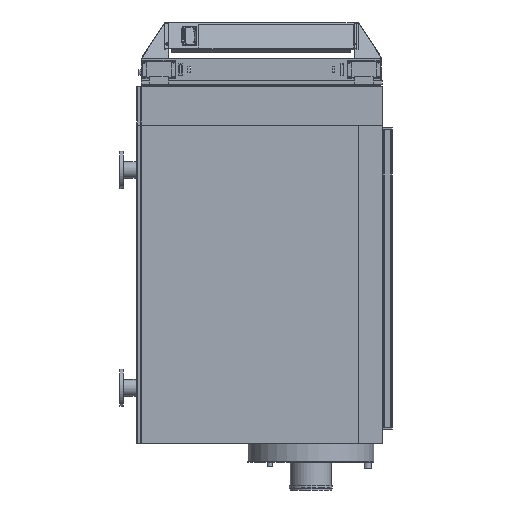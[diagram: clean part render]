
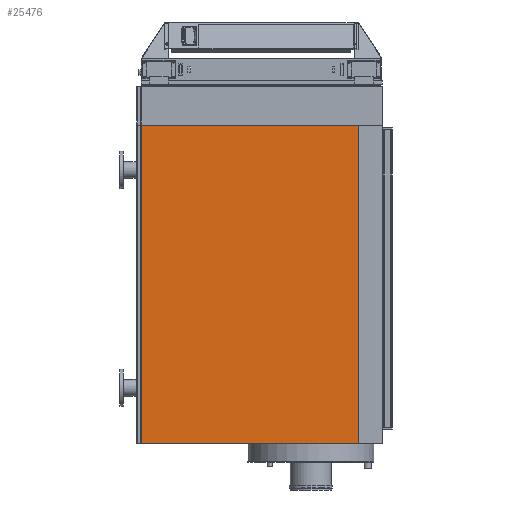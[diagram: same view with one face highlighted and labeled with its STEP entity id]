
A CAD part, left-side view. The second image highlights one B-rep face of the part: STEP entity #25476.
In plain terms, the highlighted planar face has unit normal (-1, 0, 0).
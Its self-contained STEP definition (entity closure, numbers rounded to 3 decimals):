
#2368 = ORIENTED_EDGE ( 'NONE', *, *, #19147, .T. ) ;
#2831 = VECTOR ( 'NONE', #27431, 1000. ) ;
#3181 = VERTEX_POINT ( 'NONE', #39665 ) ;
#3786 = DIRECTION ( 'NONE',  ( 0., 0., -1. ) ) ;
#5377 = AXIS2_PLACEMENT_3D ( 'NONE', #7415, #14826, #41659 ) ;
#7415 = CARTESIAN_POINT ( 'NONE',  ( 65., 672.672, 19.8 ) ) ;
#8136 = DIRECTION ( 'NONE',  ( 0., -1., 0. ) ) ;
#8355 = VERTEX_POINT ( 'NONE', #46560 ) ;
#11378 = CARTESIAN_POINT ( 'NONE',  ( 65., -496.478, -1689.35 ) ) ;
#14826 = DIRECTION ( 'NONE',  ( 1., 0., 0. ) ) ;
#16349 = CARTESIAN_POINT ( 'NONE',  ( 65., -497.328, 18.95 ) ) ;
#17248 = LINE ( 'NONE', #31647, #2831 ) ;
#19147 = EDGE_CURVE ( 'NONE', #47672, #3181, #19160, .T. ) ;
#19160 = LINE ( 'NONE', #33797, #48698 ) ;
#19654 = EDGE_LOOP ( 'NONE', ( #26708, #35891, #2368, #25312 ) ) ;
#19795 = CARTESIAN_POINT ( 'NONE',  ( 65., 672.672, -1689.35 ) ) ;
#22979 = EDGE_CURVE ( 'NONE', #26599, #8355, #17248, .T. ) ;
#25312 = ORIENTED_EDGE ( 'NONE', *, *, #43225, .T. ) ;
#25364 = VECTOR ( 'NONE', #41959, 1000. ) ;
#25476 = ADVANCED_FACE ( 'NONE', ( #26503 ), #37925, .F. ) ;
#26503 = FACE_OUTER_BOUND ( 'NONE', #19654, .T. ) ;
#26599 = VERTEX_POINT ( 'NONE', #11378 ) ;
#26708 = ORIENTED_EDGE ( 'NONE', *, *, #22979, .T. ) ;
#27431 = DIRECTION ( 'NONE',  ( 0., 0., 1. ) ) ;
#27667 = EDGE_CURVE ( 'NONE', #8355, #47672, #31010, .T. ) ;
#31010 = LINE ( 'NONE', #16349, #25364 ) ;
#31647 = CARTESIAN_POINT ( 'NONE',  ( 65., -496.478, -1690.2 ) ) ;
#33797 = CARTESIAN_POINT ( 'NONE',  ( 65., 671.822, 8569.8 ) ) ;
#34682 = LINE ( 'NONE', #19795, #47533 ) ;
#35891 = ORIENTED_EDGE ( 'NONE', *, *, #27667, .T. ) ;
#36212 = CARTESIAN_POINT ( 'NONE',  ( 65., 671.822, 18.95 ) ) ;
#37925 = PLANE ( 'NONE',  #5377 ) ;
#39665 = CARTESIAN_POINT ( 'NONE',  ( 65., 671.822, -1689.35 ) ) ;
#41659 = DIRECTION ( 'NONE',  ( 0., 0., -1. ) ) ;
#41959 = DIRECTION ( 'NONE',  ( 0., 1., 0. ) ) ;
#43225 = EDGE_CURVE ( 'NONE', #3181, #26599, #34682, .T. ) ;
#46560 = CARTESIAN_POINT ( 'NONE',  ( 65., -496.478, 18.95 ) ) ;
#47533 = VECTOR ( 'NONE', #8136, 1000. ) ;
#47672 = VERTEX_POINT ( 'NONE', #36212 ) ;
#48698 = VECTOR ( 'NONE', #3786, 1000. ) ;
